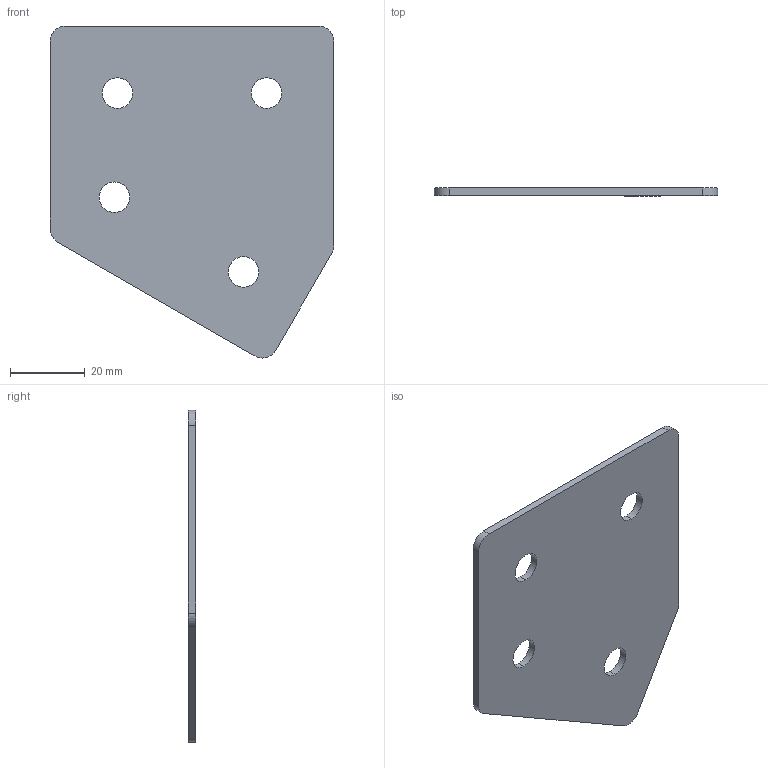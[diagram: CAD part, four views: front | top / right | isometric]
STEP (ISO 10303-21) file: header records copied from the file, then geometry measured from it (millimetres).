
FILE_DESCRIPTION (( 'STEP AP203' ), '1' );
FILE_NAME ('Ï-4-óãîë 30-40.STEP', '2016-07-23T16:43:11', ( '' ), ( '' ), 'SwSTEP 2.0', 'SolidWorks 2014', '' );
FILE_SCHEMA (( 'CONFIG_CONTROL_DESIGN' ));
Length unit declared in the file: millimetre
Products named in the file (1): Ï-4-óãîë 30-40
Bounding box: 76 x 2 x 89.04 mm (x, y, z)
Volume: 10808.3 mm3; surface area: 11594 mm2
Topology: 1 solids, 1 shells, 20 faces, 54 edges, 36 vertices
Faces by surface type: cylinder 13, plane 7
Entity records: 737 total; most frequent: DIRECTION 122, CARTESIAN_POINT 111, ORIENTED_EDGE 108, EDGE_CURVE 54, AXIS2_PLACEMENT_3D 47, VERTEX_POINT 36, EDGE_LOOP 28, VECTOR 28
